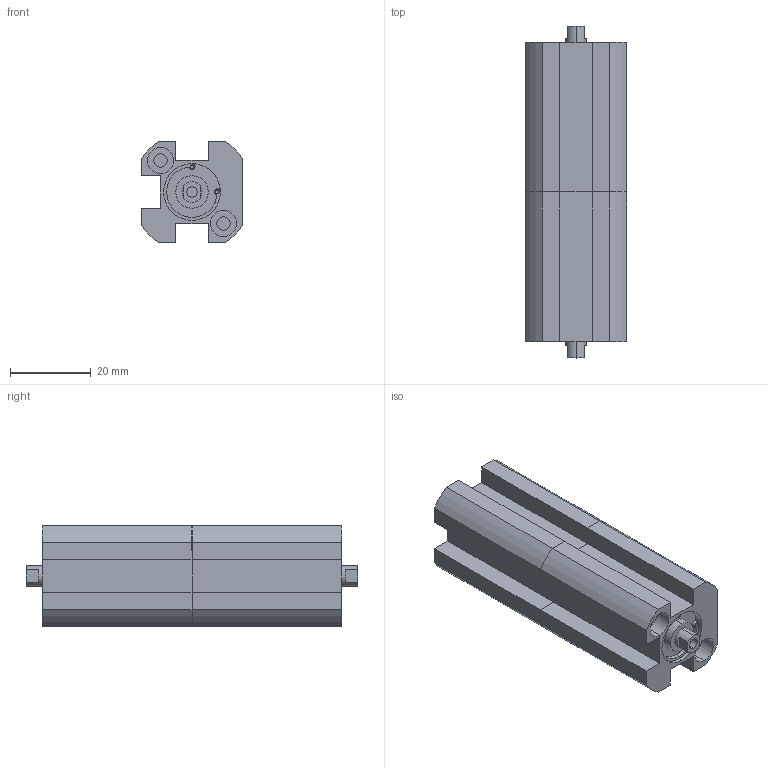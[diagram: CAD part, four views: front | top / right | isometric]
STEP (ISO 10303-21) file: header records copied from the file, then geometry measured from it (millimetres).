
FILE_DESCRIPTION (( 'STEP AP203' ), '1' );
FILE_NAME ('XGD7-10-10-10.STEP', '2016-08-05T01:41:47', ( '' ), ( '' ), 'SwSTEP 2.0', 'SolidWorks 2014', '' );
FILE_SCHEMA (( 'CONFIG_CONTROL_DESIGN' ));
Length unit declared in the file: millimetre
Products named in the file (2): XG#2-10-10; XGD7-10-10-10
Assembly tree (2 placements, depth 2):
  XGD7-10-10-10
    XG#2-10-10  x2
Bounding box: 25 x 82 x 25 mm (x, y, z)
Volume: 32533.6 mm3; surface area: 13674.3 mm2
Topology: 2 solids, 2 shells, 152 faces, 374 edges, 242 vertices
Faces by surface type: cylinder 78, plane 66, cone 8
Entity records: 2482 total; most frequent: DIRECTION 428, CARTESIAN_POINT 385, ORIENTED_EDGE 366, EDGE_CURVE 183, AXIS2_PLACEMENT_3D 164, VERTEX_POINT 121, VECTOR 100, LINE 100
